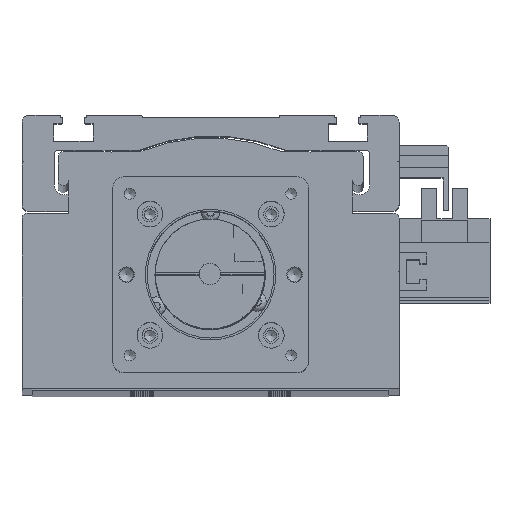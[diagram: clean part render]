
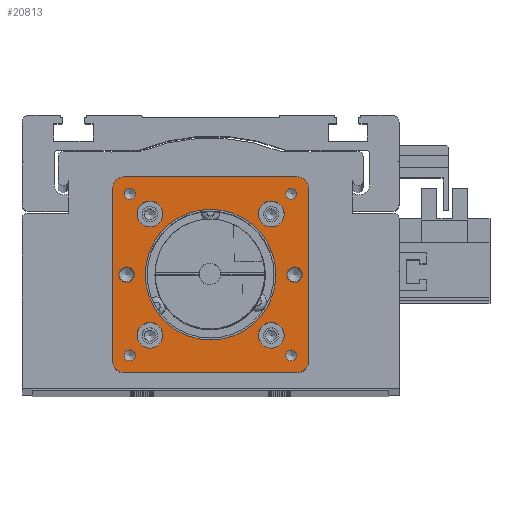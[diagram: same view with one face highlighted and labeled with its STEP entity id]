
A CAD part, top view. The second image highlights one B-rep face of the part: STEP entity #20813.
In plain terms, the highlighted planar face has unit normal (0, 0, 1).
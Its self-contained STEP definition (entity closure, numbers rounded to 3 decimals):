
#20577=CARTESIAN_POINT('',(54.0,57.0,0.0));
#20578=VERTEX_POINT('',#20577);
#20585=CARTESIAN_POINT('',(57.0,54.0,0.0));
#20586=VERTEX_POINT('',#20585);
#20587=CARTESIAN_POINT('',(54.0,54.0,0.0));
#20588=DIRECTION('',(0.0,0.0,-1.));
#20589=DIRECTION('',(0.707,0.707,0.0));
#20590=AXIS2_PLACEMENT_3D('',#20587,#20588,#20589);
#20591=CIRCLE('',#20590,3.);
#20592=EDGE_CURVE('',#20578,#20586,#20591,.T.);
#20609=CARTESIAN_POINT('',(57.0,3.,0.0));
#20610=VERTEX_POINT('',#20609);
#20611=CARTESIAN_POINT('',(57.0,3.,0.0));
#20612=DIRECTION('',(0.0,1.0,0.0));
#20613=VECTOR('',#20612,51.0);
#20614=LINE('',#20611,#20613);
#20615=EDGE_CURVE('',#20610,#20586,#20614,.T.);
#20634=CARTESIAN_POINT('',(28.5,28.5,0.0));
#20635=DIRECTION('',(0.0,0.0,1.0));
#20636=DIRECTION('',(1.0,0.0,0.0));
#20637=AXIS2_PLACEMENT_3D('',#20634,#20635,#20636);
#20638=PLANE('',#20637);
#20639=ORIENTED_EDGE('',*,*,#20592,.F.);
#20640=CARTESIAN_POINT('',(3.,57.0,0.0));
#20641=VERTEX_POINT('',#20640);
#20642=CARTESIAN_POINT('',(54.0,57.0,0.0));
#20643=DIRECTION('',(-1.0,0.0,0.0));
#20644=VECTOR('',#20643,51.0);
#20645=LINE('',#20642,#20644);
#20646=EDGE_CURVE('',#20578,#20641,#20645,.T.);
#20647=ORIENTED_EDGE('',*,*,#20646,.T.);
#20648=CARTESIAN_POINT('',(0.0,54.0,0.0));
#20649=VERTEX_POINT('',#20648);
#20650=CARTESIAN_POINT('',(3.,54.0,0.0));
#20651=DIRECTION('',(0.0,0.0,-1.0));
#20652=DIRECTION('',(-0.707,0.707,0.0));
#20653=AXIS2_PLACEMENT_3D('',#20650,#20651,#20652);
#20654=CIRCLE('',#20653,3.0);
#20655=EDGE_CURVE('',#20649,#20641,#20654,.T.);
#20656=ORIENTED_EDGE('',*,*,#20655,.F.);
#20657=CARTESIAN_POINT('',(0.0,3.,0.0));
#20658=VERTEX_POINT('',#20657);
#20659=CARTESIAN_POINT('',(0.0,54.0,0.0));
#20660=DIRECTION('',(0.0,-1.0,0.0));
#20661=VECTOR('',#20660,51.0);
#20662=LINE('',#20659,#20661);
#20663=EDGE_CURVE('',#20649,#20658,#20662,.T.);
#20664=ORIENTED_EDGE('',*,*,#20663,.T.);
#20665=CARTESIAN_POINT('',(3.,0.0,0.0));
#20666=VERTEX_POINT('',#20665);
#20667=CARTESIAN_POINT('',(3.,3.,0.0));
#20668=DIRECTION('',(0.0,0.0,-1.));
#20669=DIRECTION('',(-0.707,-0.707,0.0));
#20670=AXIS2_PLACEMENT_3D('',#20667,#20668,#20669);
#20671=CIRCLE('',#20670,3.);
#20672=EDGE_CURVE('',#20666,#20658,#20671,.T.);
#20673=ORIENTED_EDGE('',*,*,#20672,.F.);
#20674=CARTESIAN_POINT('',(54.0,0.0,0.0));
#20675=VERTEX_POINT('',#20674);
#20676=CARTESIAN_POINT('',(3.,0.0,0.0));
#20677=DIRECTION('',(1.0,0.0,0.0));
#20678=VECTOR('',#20677,51.0);
#20679=LINE('',#20676,#20678);
#20680=EDGE_CURVE('',#20666,#20675,#20679,.T.);
#20681=ORIENTED_EDGE('',*,*,#20680,.T.);
#20682=CARTESIAN_POINT('',(54.0,3.,0.0));
#20683=DIRECTION('',(0.0,0.0,-1.));
#20684=DIRECTION('',(0.707,-0.707,0.0));
#20685=AXIS2_PLACEMENT_3D('',#20682,#20683,#20684);
#20686=CIRCLE('',#20685,3.);
#20687=EDGE_CURVE('',#20610,#20675,#20686,.T.);
#20688=ORIENTED_EDGE('',*,*,#20687,.F.);
#20689=ORIENTED_EDGE('',*,*,#20615,.T.);
#20690=EDGE_LOOP('',(#20639,#20647,#20656,#20664,#20673,#20681,#20688,#20689));
#20691=FACE_OUTER_BOUND('',#20690,.T.);
#20692=CARTESIAN_POINT('',(6.25,28.5,0.0));
#20693=VERTEX_POINT('',#20692);
#20694=CARTESIAN_POINT('',(4.,28.5,0.0));
#20695=DIRECTION('',(0.0,0.0,-1.0));
#20696=DIRECTION('',(1.0,0.0,0.0));
#20697=AXIS2_PLACEMENT_3D('',#20694,#20695,#20696);
#20698=CIRCLE('',#20697,2.25);
#20699=EDGE_CURVE('',#20693,#20693,#20698,.T.);
#20700=ORIENTED_EDGE('',*,*,#20699,.T.);
#20701=EDGE_LOOP('',(#20700));
#20702=FACE_BOUND('',#20701,.T.);
#20703=CARTESIAN_POINT('',(55.25,28.5,0.0));
#20704=VERTEX_POINT('',#20703);
#20705=CARTESIAN_POINT('',(53.,28.5,0.0));
#20706=DIRECTION('',(0.0,0.0,-1.0));
#20707=DIRECTION('',(1.0,0.0,0.0));
#20708=AXIS2_PLACEMENT_3D('',#20705,#20706,#20707);
#20709=CIRCLE('',#20708,2.25);
#20710=EDGE_CURVE('',#20704,#20704,#20709,.T.);
#20711=ORIENTED_EDGE('',*,*,#20710,.T.);
#20712=EDGE_LOOP('',(#20711));
#20713=FACE_BOUND('',#20712,.T.);
#20714=CARTESIAN_POINT('',(6.546,4.925,0.0));
#20715=VERTEX_POINT('',#20714);
#20716=CARTESIAN_POINT('',(4.925,4.925,0.0));
#20717=DIRECTION('',(0.0,0.0,-1.0));
#20718=DIRECTION('',(1.0,0.0,0.0));
#20719=AXIS2_PLACEMENT_3D('',#20716,#20717,#20718);
#20720=CIRCLE('',#20719,1.621);
#20721=EDGE_CURVE('',#20715,#20715,#20720,.T.);
#20722=ORIENTED_EDGE('',*,*,#20721,.T.);
#20723=EDGE_LOOP('',(#20722));
#20724=FACE_BOUND('',#20723,.T.);
#20725=CARTESIAN_POINT('',(53.696,52.075,0.0));
#20726=VERTEX_POINT('',#20725);
#20727=CARTESIAN_POINT('',(52.075,52.075,0.0));
#20728=DIRECTION('',(0.0,0.0,-1.0));
#20729=DIRECTION('',(1.0,0.0,0.0));
#20730=AXIS2_PLACEMENT_3D('',#20727,#20728,#20729);
#20731=CIRCLE('',#20730,1.621);
#20732=EDGE_CURVE('',#20726,#20726,#20731,.T.);
#20733=ORIENTED_EDGE('',*,*,#20732,.T.);
#20734=EDGE_LOOP('',(#20733));
#20735=FACE_BOUND('',#20734,.T.);
#20736=CARTESIAN_POINT('',(6.546,52.075,0.0));
#20737=VERTEX_POINT('',#20736);
#20738=CARTESIAN_POINT('',(4.925,52.075,0.0));
#20739=DIRECTION('',(0.0,0.0,-1.0));
#20740=DIRECTION('',(1.0,0.0,0.0));
#20741=AXIS2_PLACEMENT_3D('',#20738,#20739,#20740);
#20742=CIRCLE('',#20741,1.621);
#20743=EDGE_CURVE('',#20737,#20737,#20742,.T.);
#20744=ORIENTED_EDGE('',*,*,#20743,.T.);
#20745=EDGE_LOOP('',(#20744));
#20746=FACE_BOUND('',#20745,.T.);
#20747=CARTESIAN_POINT('',(53.696,4.925,0.0));
#20748=VERTEX_POINT('',#20747);
#20749=CARTESIAN_POINT('',(52.075,4.925,0.0));
#20750=DIRECTION('',(0.0,0.0,-1.0));
#20751=DIRECTION('',(1.0,0.0,0.0));
#20752=AXIS2_PLACEMENT_3D('',#20749,#20750,#20751);
#20753=CIRCLE('',#20752,1.621);
#20754=EDGE_CURVE('',#20748,#20748,#20753,.T.);
#20755=ORIENTED_EDGE('',*,*,#20754,.T.);
#20756=EDGE_LOOP('',(#20755));
#20757=FACE_BOUND('',#20756,.T.);
#20758=CARTESIAN_POINT('',(49.95,10.8,0.0));
#20759=VERTEX_POINT('',#20758);
#20760=CARTESIAN_POINT('',(46.2,10.8,0.0));
#20761=DIRECTION('',(0.0,0.0,-1.0));
#20762=DIRECTION('',(1.0,0.0,0.0));
#20763=AXIS2_PLACEMENT_3D('',#20760,#20761,#20762);
#20764=CIRCLE('',#20763,3.75);
#20765=EDGE_CURVE('',#20759,#20759,#20764,.T.);
#20766=ORIENTED_EDGE('',*,*,#20765,.T.);
#20767=EDGE_LOOP('',(#20766));
#20768=FACE_BOUND('',#20767,.T.);
#20769=CARTESIAN_POINT('',(14.55,46.2,0.0));
#20770=VERTEX_POINT('',#20769);
#20771=CARTESIAN_POINT('',(10.8,46.2,0.0));
#20772=DIRECTION('',(0.0,0.0,-1.0));
#20773=DIRECTION('',(1.0,0.0,0.0));
#20774=AXIS2_PLACEMENT_3D('',#20771,#20772,#20773);
#20775=CIRCLE('',#20774,3.75);
#20776=EDGE_CURVE('',#20770,#20770,#20775,.T.);
#20777=ORIENTED_EDGE('',*,*,#20776,.T.);
#20778=EDGE_LOOP('',(#20777));
#20779=FACE_BOUND('',#20778,.T.);
#20780=CARTESIAN_POINT('',(49.95,46.2,0.0));
#20781=VERTEX_POINT('',#20780);
#20782=CARTESIAN_POINT('',(46.2,46.2,0.0));
#20783=DIRECTION('',(0.0,0.0,-1.0));
#20784=DIRECTION('',(1.0,0.0,0.0));
#20785=AXIS2_PLACEMENT_3D('',#20782,#20783,#20784);
#20786=CIRCLE('',#20785,3.75);
#20787=EDGE_CURVE('',#20781,#20781,#20786,.T.);
#20788=ORIENTED_EDGE('',*,*,#20787,.T.);
#20789=EDGE_LOOP('',(#20788));
#20790=FACE_BOUND('',#20789,.T.);
#20791=CARTESIAN_POINT('',(14.55,10.8,0.0));
#20792=VERTEX_POINT('',#20791);
#20793=CARTESIAN_POINT('',(10.8,10.8,0.0));
#20794=DIRECTION('',(0.0,0.0,-1.0));
#20795=DIRECTION('',(1.0,0.0,0.0));
#20796=AXIS2_PLACEMENT_3D('',#20793,#20794,#20795);
#20797=CIRCLE('',#20796,3.75);
#20798=EDGE_CURVE('',#20792,#20792,#20797,.T.);
#20799=ORIENTED_EDGE('',*,*,#20798,.T.);
#20800=EDGE_LOOP('',(#20799));
#20801=FACE_BOUND('',#20800,.T.);
#20802=CARTESIAN_POINT('',(47.55,28.5,0.0));
#20803=VERTEX_POINT('',#20802);
#20804=CARTESIAN_POINT('',(28.5,28.5,0.0));
#20805=DIRECTION('',(0.0,0.0,-1.0));
#20806=DIRECTION('',(-1.0,0.0,0.0));
#20807=AXIS2_PLACEMENT_3D('',#20804,#20805,#20806);
#20808=CIRCLE('',#20807,19.05);
#20809=EDGE_CURVE('',#20803,#20803,#20808,.T.);
#20810=ORIENTED_EDGE('',*,*,#20809,.T.);
#20811=EDGE_LOOP('',(#20810));
#20812=FACE_BOUND('',#20811,.T.);
#20813=ADVANCED_FACE('',(#20691,#20702,#20713,#20724,#20735,#20746,#20757,#20768,#20779,#20790,#20801,#20812),#20638,.T.);
